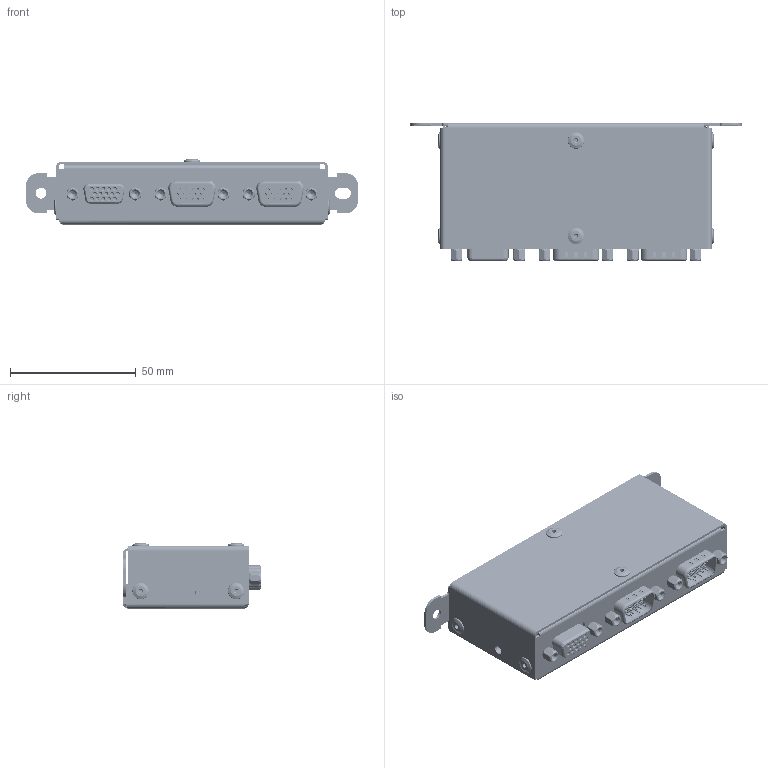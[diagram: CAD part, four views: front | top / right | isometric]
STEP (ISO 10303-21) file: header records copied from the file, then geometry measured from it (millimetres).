
FILE_DESCRIPTION (( 'STEP AP214' ), '1' );
FILE_NAME ('EncoderSplitter_RevZ.STEP', '2021-11-30T23:03:30', ( '' ), ( '' ), 'SwSTEP 2.0', 'SolidWorks 2020', '' );
FILE_SCHEMA (( 'AUTOMOTIVE_DESIGN' ));
Length unit declared in the file: millimetre
Products named in the file (6): Blindniete-D3.0-L6-Clamp1.6; Abstandsbolzen-I-A-UNC4-40x4.8-6.9; EncoderSplitter_RevZ; PCBA; EncSplit-Cover; EncSplit-Case
Assembly tree (15 placements, depth 2):
  EncoderSplitter_RevZ
    EncSplit-Case
    Abstandsbolzen-I-A-UNC4-40x4.8-6.9  x6
    PCBA
    EncSplit-Cover
    Blindniete-D3.0-L6-Clamp1.6  x6
Bounding box: 132 x 54.87 x 26 mm (x, y, z)
Volume: 36130 mm3; surface area: 66528.4 mm2
Topology: 241 solids, 241 shells, 9482 faces, 21841 edges, 12890 vertices
Faces by surface type: plane 4686, bspline 2146, cylinder 1956, torus 296, sphere 252, cone 146
Entity records: 364652 total; most frequent: CARTESIAN_POINT 166999, ORIENTED_EDGE 42304, DIRECTION 34547, EDGE_CURVE 21152, VERTEX_POINT 12485, LINE 12111, VECTOR 12111, AXIS2_PLACEMENT_3D 11218
